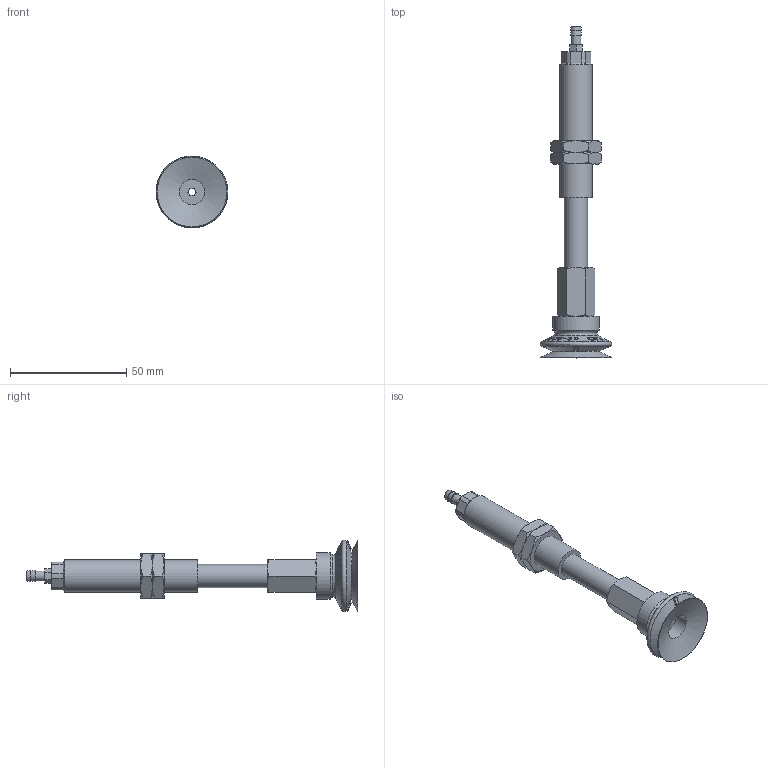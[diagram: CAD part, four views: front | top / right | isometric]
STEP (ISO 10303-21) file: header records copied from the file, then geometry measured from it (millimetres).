
FILE_DESCRIPTION(('STEP AP214'),'1');
FILE_NAME('-T.stp','2026-01-21T05:35:42',(' '),(' '),'Spatial InterOp 3D',' ',' ');
FILE_SCHEMA(('AUTOMOTIVE_DESIGN { 1 0 10303 214 1 1 1 1 }'));
Length unit declared in the file: millimetre
Products named in the file (8): BNABPJTS-30-30-※-T; ADAPTER; NAPJTS-30-30-MBODY; BPJG-30-※; Adapter-30-NAPJ; NUT-NAPJ-30-30-s; NAPJTS-30-30-FBODY; T
Assembly tree (8 placements, depth 2):
  BNABPJTS-30-30-※-T
    ADAPTER
    NAPJTS-30-30-MBODY
    BPJG-30-※
    Adapter-30-NAPJ
    NUT-NAPJ-30-30-s  x2
    NAPJTS-30-30-FBODY
    T
Bounding box: 30.99 x 143 x 30.99 mm (x, y, z)
Volume: 22472.7 mm3; surface area: 16489 mm2
Topology: 8 solids, 8 shells, 788 faces, 2177 edges, 1430 vertices
Faces by surface type: plane 679, cone 70, cylinder 32, torus 7
Full cylindrical faces by diameter (mm): 3 x4, 4.134 x1, 4.3 x1, 4.917 x1, 5 x1, 5.8 x1, 6 x1, 10 x2, 10.8 x1, 11 x1, 13.188 x2, 14 x1, 20 x1
Entity records: 31446 total; most frequent: CARTESIAN_POINT 7753, ORIENTED_EDGE 4176, DIRECTION 2665, EDGE_CURVE 2088, VERTEX_POINT 1397, B_SPLINE_CURVE_WITH_KNOTS 1084, LINE 891, VECTOR 891
